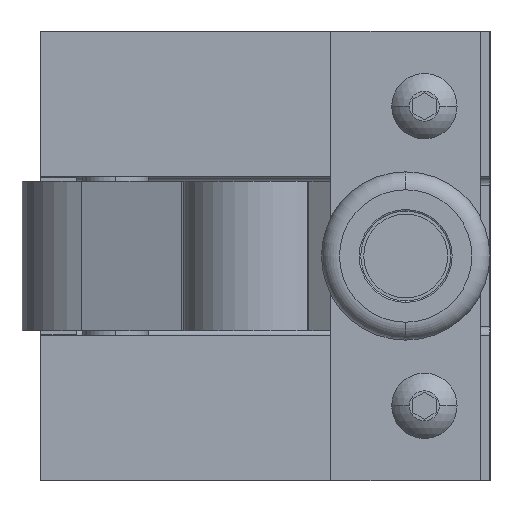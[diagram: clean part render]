
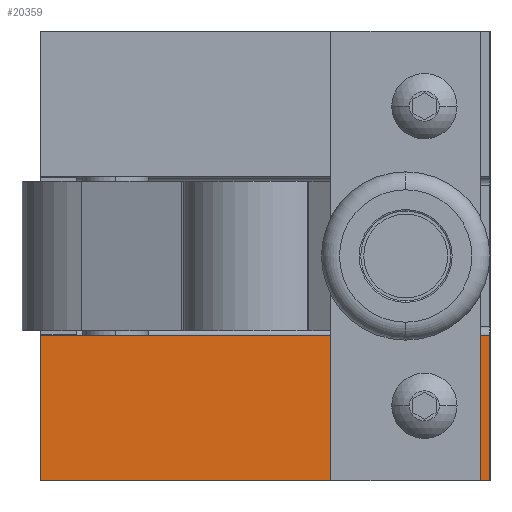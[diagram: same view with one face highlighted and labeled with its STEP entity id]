
A CAD part, left-side view. The second image highlights one B-rep face of the part: STEP entity #20359.
In plain terms, the highlighted planar face has unit normal (-1, 0, 0).
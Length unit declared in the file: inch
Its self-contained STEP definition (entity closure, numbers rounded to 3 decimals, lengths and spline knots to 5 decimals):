
#4110 = DIRECTION ( 'NONE',  ( -1., 0., 0. ) ) ;
#4111 = CARTESIAN_POINT ( 'NONE',  ( 5.66064, 3.20971, -2.5 ) ) ;
#4112 = AXIS2_PLACEMENT_3D ( 'NONE', #4111, #4110, #4142 ) ;
#4133 = CIRCLE ( 'NONE', #4112, 0.125 ) ;
#4141 = CARTESIAN_POINT ( 'NONE',  ( 5.66064, 3.20971, -2.375 ) ) ;
#4142 = DIRECTION ( 'NONE',  ( 0., 0., 1. ) ) ;
#4175 = CARTESIAN_POINT ( 'NONE',  ( 5.66064, 3.20971, -2.625 ) ) ;
#4443 = LINE ( 'NONE', #4496, #4495 ) ;
#4494 = DIRECTION ( 'NONE',  ( 0., 0., 1. ) ) ;
#4495 = VECTOR ( 'NONE', #4494, 39.37008 ) ;
#4496 = CARTESIAN_POINT ( 'NONE',  ( 5.66064, 5.77171, -3. ) ) ;
#4668 = CARTESIAN_POINT ( 'NONE',  ( 5.66064, 5.77171, -2.03 ) ) ;
#4742 = CARTESIAN_POINT ( 'NONE',  ( 5.66064, 5.77171, -3. ) ) ;
#5840 = DIRECTION ( 'NONE',  ( 0., -1., 0. ) ) ;
#5841 = VECTOR ( 'NONE', #5840, 39.37008 ) ;
#5842 = CARTESIAN_POINT ( 'NONE',  ( 5.66064, 2.77171, -2.03 ) ) ;
#5843 = LINE ( 'NONE', #5842, #5841 ) ;
#5844 = DIRECTION ( 'NONE',  ( 0., 0., 1. ) ) ;
#5845 = VECTOR ( 'NONE', #5844, 39.37008 ) ;
#5846 = CARTESIAN_POINT ( 'NONE',  ( 5.66064, 2.77171, -3. ) ) ;
#5850 = LINE ( 'NONE', #5846, #5845 ) ;
#5926 = CARTESIAN_POINT ( 'NONE',  ( 5.66064, 2.77171, -2.03 ) ) ;
#6083 = FACE_OUTER_BOUND ( 'NONE', #20308, .T. ) ;
#6084 = DIRECTION ( 'NONE',  ( 0., 0., 1. ) ) ;
#6085 = DIRECTION ( 'NONE',  ( -1., 0., 0. ) ) ;
#6086 = CARTESIAN_POINT ( 'NONE',  ( 5.66064, 3.20971, -2.5 ) ) ;
#6087 = AXIS2_PLACEMENT_3D ( 'NONE', #6086, #6085, #6084 ) ;
#6088 = CIRCLE ( 'NONE', #6087, 0.125 ) ;
#6089 = FACE_BOUND ( 'NONE', #20297, .T. ) ;
#6090 = CARTESIAN_POINT ( 'NONE',  ( 5.66064, 2.77171, -3. ) ) ;
#6091 = DIRECTION ( 'NONE',  ( 0., -1., 0. ) ) ;
#6099 = DIRECTION ( 'NONE',  ( 0., 0., 1. ) ) ;
#6100 = DIRECTION ( 'NONE',  ( -1., 0., 0. ) ) ;
#6101 = CARTESIAN_POINT ( 'NONE',  ( 5.66064, 2.77171, -3. ) ) ;
#6102 = AXIS2_PLACEMENT_3D ( 'NONE', #6101, #6100, #6099 ) ;
#6103 = PLANE ( 'NONE',  #6102 ) ;
#6206 = VECTOR ( 'NONE', #6091, 39.37008 ) ;
#6207 = CARTESIAN_POINT ( 'NONE',  ( 5.66064, 2.77171, -3. ) ) ;
#6208 = LINE ( 'NONE', #6207, #6206 ) ;
#19516 = VERTEX_POINT ( 'NONE', #4175 ) ;
#19518 = EDGE_CURVE ( 'NONE', #19516, #19519, #4133, .T. ) ;
#19519 = VERTEX_POINT ( 'NONE', #4141 ) ;
#19716 = EDGE_CURVE ( 'NONE', #19815, #19791, #4443, .T. ) ;
#19791 = VERTEX_POINT ( 'NONE', #4668 ) ;
#19815 = VERTEX_POINT ( 'NONE', #4742 ) ;
#20291 = ORIENTED_EDGE ( 'NONE', *, *, #20318, .F. ) ;
#20292 = VERTEX_POINT ( 'NONE', #5926 ) ;
#20293 = ORIENTED_EDGE ( 'NONE', *, *, #19716, .F. ) ;
#20297 = EDGE_LOOP ( 'NONE', ( #20365, #20358 ) ) ;
#20308 = EDGE_LOOP ( 'NONE', ( #20291, #20293, #20354, #20322 ) ) ;
#20317 = EDGE_CURVE ( 'NONE', #20356, #20292, #5850, .T. ) ;
#20318 = EDGE_CURVE ( 'NONE', #19791, #20292, #5843, .T. ) ;
#20322 = ORIENTED_EDGE ( 'NONE', *, *, #20317, .T. ) ;
#20354 = ORIENTED_EDGE ( 'NONE', *, *, #20355, .T. ) ;
#20355 = EDGE_CURVE ( 'NONE', #19815, #20356, #6208, .T. ) ;
#20356 = VERTEX_POINT ( 'NONE', #6090 ) ;
#20357 = EDGE_CURVE ( 'NONE', #19519, #19516, #6088, .T. ) ;
#20358 = ORIENTED_EDGE ( 'NONE', *, *, #19518, .F. ) ;
#20359 = ADVANCED_FACE ( 'NONE', ( #6089, #6083 ), #6103, .T. ) ;
#20365 = ORIENTED_EDGE ( 'NONE', *, *, #20357, .F. ) ;
